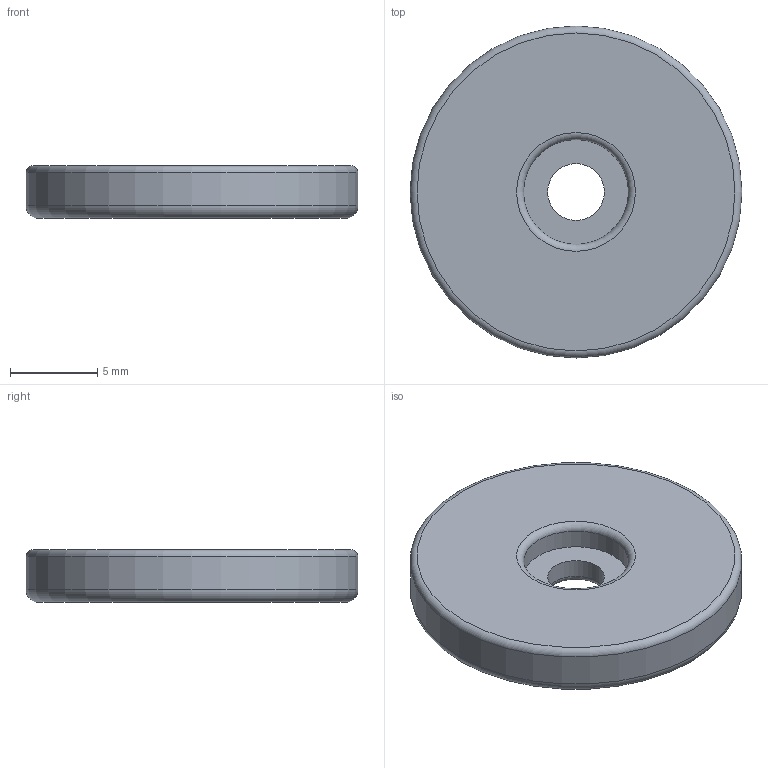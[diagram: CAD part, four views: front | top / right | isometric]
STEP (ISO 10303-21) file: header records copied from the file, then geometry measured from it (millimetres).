
FILE_DESCRIPTION(/* description */ (''),/* implementation_level */ '2;1');
FILE_NAME(/* name */ 'G:\~~Autodesk Inventor File Backup~~\Wolverine Parts by Kamel Ikhlef\My Inventor Drawn Telecine Parts\My USED STP Files\Front_Pulley_Capstan_S8_for Hex_NO Brass Inserts.stp',/* time_stamp */ '2020-02-16T20:23:37+11:00',/* author */ ('bruce'),/* organization */ (''),/* preprocessor_version */ 'ST-DEVELOPER v17.2',/* originating_system */ 'Autodesk Inventor 2019',/* authorisation */ '');
FILE_SCHEMA (('AUTOMOTIVE_DESIGN { 1 0 10303 214 3 1 1 }'));
Length unit declared in the file: millimetre
Products named in the file (1): Front_Pulley_Capstan_S8_for Hex_NO Brass Inserts
Bounding box: 19 x 19 x 3 mm (x, y, z)
Volume: 786.5 mm3; surface area: 739.8 mm2
Topology: 1 solids, 1 shells, 10 faces, 21 edges, 14 vertices
Faces by surface type: torus 4, plane 3, cylinder 3
Full cylindrical faces by diameter (mm): 3.25 x1, 6 x1, 19 x1
Entity records: 328 total; most frequent: DIRECTION 61, CARTESIAN_POINT 46, ORIENTED_EDGE 42, AXIS2_PLACEMENT_3D 29, EDGE_CURVE 21, CIRCLE 18, VERTEX_POINT 14, EDGE_LOOP 13
